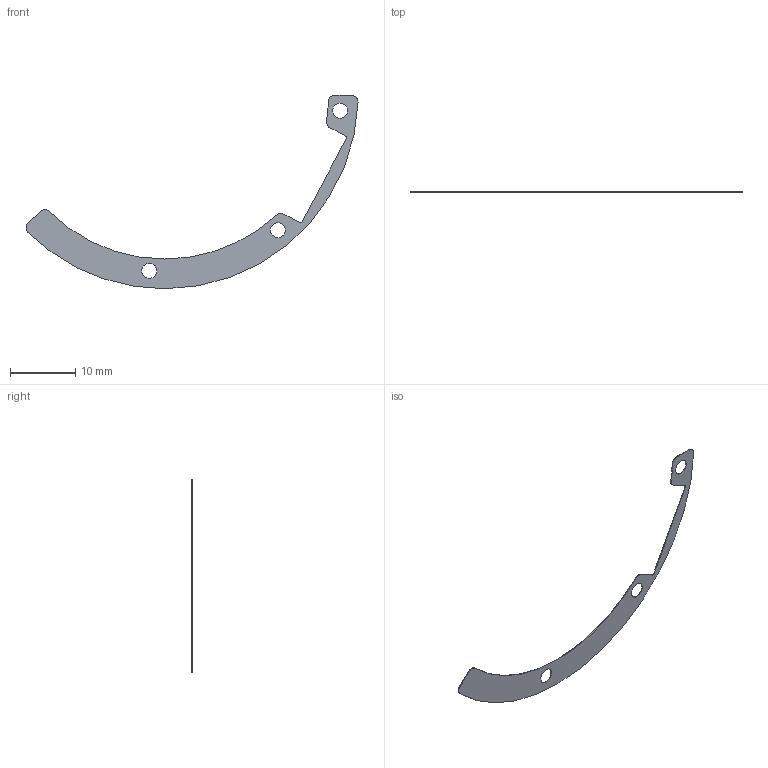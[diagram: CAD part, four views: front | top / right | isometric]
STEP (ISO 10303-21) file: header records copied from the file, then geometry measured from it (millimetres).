
FILE_DESCRIPTION (( 'STEP AP214' ), '1' );
FILE_NAME ('MN02236D02_01.STEP', '2023-12-18T13:16:39', ( '' ), ( '' ), 'SwSTEP 2.0', 'SolidWorks 2022', '' );
FILE_SCHEMA (( 'AUTOMOTIVE_DESIGN' ));
Length unit declared in the file: millimetre
Products named in the file (1): MN02236D02_01
Bounding box: 50.89 x 0.1 x 29.65 mm (x, y, z)
Volume: 24 mm3; surface area: 496 mm2
Topology: 1 solids, 1 shells, 27 faces, 75 edges, 50 vertices
Faces by surface type: cylinder 20, plane 7
Entity records: 935 total; most frequent: DIRECTION 171, CARTESIAN_POINT 153, ORIENTED_EDGE 150, EDGE_CURVE 75, AXIS2_PLACEMENT_3D 68, VERTEX_POINT 50, CIRCLE 40, VECTOR 35
